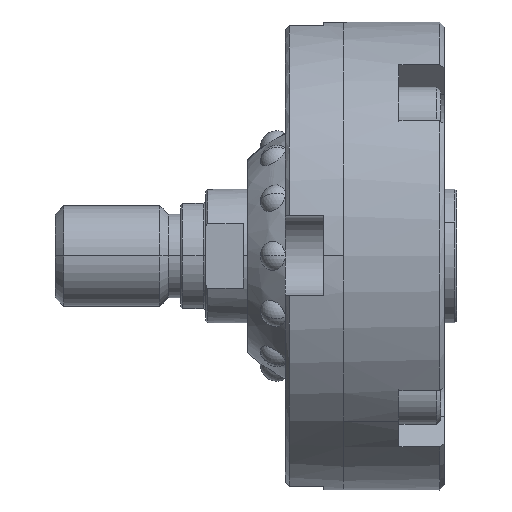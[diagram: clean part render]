
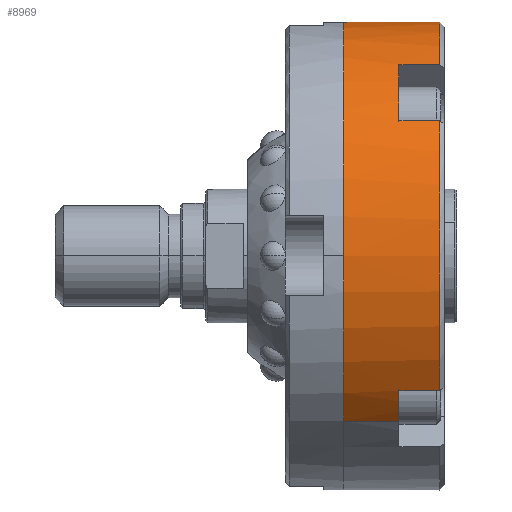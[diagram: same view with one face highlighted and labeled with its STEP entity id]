
A CAD part, top view. The second image highlights one B-rep face of the part: STEP entity #8969.
In plain terms, the highlighted cylindrical face has radius 28 mm (diameter 56 mm), a partial arc.
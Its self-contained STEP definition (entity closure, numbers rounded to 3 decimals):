
#106 = ORIENTED_EDGE ( 'NONE', *, *, #1898, .T. ) ;
#303 = EDGE_CURVE ( 'NONE', #12655, #7101, #6456, .T. ) ;
#331 = ORIENTED_EDGE ( 'NONE', *, *, #2653, .F. ) ;
#407 = AXIS2_PLACEMENT_3D ( 'NONE', #15243, #13751, #7183 ) ;
#442 = ORIENTED_EDGE ( 'NONE', *, *, #5918, .T. ) ;
#585 = ORIENTED_EDGE ( 'NONE', *, *, #9670, .T. ) ;
#1416 = DIRECTION ( 'NONE',  ( -1., 0., 0. ) ) ;
#1421 = DIRECTION ( 'NONE',  ( 1., 0., 0. ) ) ;
#1675 = CIRCLE ( 'NONE', #5945, 28. ) ;
#1685 = DIRECTION ( 'NONE',  ( 1., 0., 0. ) ) ;
#1898 = EDGE_CURVE ( 'NONE', #5867, #5313, #13433, .T. ) ;
#1903 = VECTOR ( 'NONE', #1685, 1000. ) ;
#1968 = VECTOR ( 'NONE', #12064, 1000. ) ;
#2466 = AXIS2_PLACEMENT_3D ( 'NONE', #11170, #9695, #15219 ) ;
#2653 = EDGE_CURVE ( 'NONE', #13579, #10893, #12300, .T. ) ;
#3038 = CARTESIAN_POINT ( 'NONE',  ( 6.6, 0., 0. ) ) ;
#3044 = EDGE_LOOP ( 'NONE', ( #5133, #6478, #15758, #331, #11834, #6202, #106, #442, #5232, #13037, #585, #8322, #3080 ) ) ;
#3080 = ORIENTED_EDGE ( 'NONE', *, *, #16392, .T. ) ;
#3205 = CIRCLE ( 'NONE', #5458, 28. ) ;
#3392 = CARTESIAN_POINT ( 'NONE',  ( 6.6, 19.799, -19.799 ) ) ;
#3458 = CARTESIAN_POINT ( 'NONE',  ( 0., 22.871, -16.153 ) ) ;
#3619 = CARTESIAN_POINT ( 'NONE',  ( 0., 0., 0. ) ) ;
#3744 = VECTOR ( 'NONE', #5000, 1000. ) ;
#3757 = CARTESIAN_POINT ( 'NONE',  ( 11.5, 0., 0. ) ) ;
#3783 = AXIS2_PLACEMENT_3D ( 'NONE', #4033, #1421, #5442 ) ;
#3946 = CIRCLE ( 'NONE', #12254, 28. ) ;
#4033 = CARTESIAN_POINT ( 'NONE',  ( 6.6, 0., 0. ) ) ;
#4036 = CARTESIAN_POINT ( 'NONE',  ( 11.5, 22.871, -16.153 ) ) ;
#4154 = CARTESIAN_POINT ( 'NONE',  ( 0., 16.153, 22.871 ) ) ;
#4933 = VERTEX_POINT ( 'NONE', #14324 ) ;
#5000 = DIRECTION ( 'NONE',  ( -1., 0., 0. ) ) ;
#5128 = LINE ( 'NONE', #3458, #8436 ) ;
#5133 = ORIENTED_EDGE ( 'NONE', *, *, #8750, .F. ) ;
#5232 = ORIENTED_EDGE ( 'NONE', *, *, #13773, .T. ) ;
#5313 = VERTEX_POINT ( 'NONE', #16124 ) ;
#5442 = DIRECTION ( 'NONE',  ( 0., 0.707, -0.707 ) ) ;
#5458 = AXIS2_PLACEMENT_3D ( 'NONE', #6944, #14643, #7992 ) ;
#5657 = EDGE_CURVE ( 'NONE', #7867, #16927, #8741, .T. ) ;
#5867 = VERTEX_POINT ( 'NONE', #14524 ) ;
#5918 = EDGE_CURVE ( 'NONE', #5313, #11904, #3946, .T. ) ;
#5945 = AXIS2_PLACEMENT_3D ( 'NONE', #3038, #8343, #13697 ) ;
#6202 = ORIENTED_EDGE ( 'NONE', *, *, #10100, .F. ) ;
#6456 = CIRCLE ( 'NONE', #11444, 28. ) ;
#6478 = ORIENTED_EDGE ( 'NONE', *, *, #5657, .T. ) ;
#6944 = CARTESIAN_POINT ( 'NONE',  ( 6.6, 0., 0. ) ) ;
#7101 = VERTEX_POINT ( 'NONE', #4036 ) ;
#7183 = DIRECTION ( 'NONE',  ( 0., -0.707, 0.707 ) ) ;
#7279 = CYLINDRICAL_SURFACE ( 'NONE', #407, 28. ) ;
#7713 = EDGE_CURVE ( 'NONE', #16935, #11797, #1675, .T. ) ;
#7867 = VERTEX_POINT ( 'NONE', #3392 ) ;
#7992 = DIRECTION ( 'NONE',  ( 0., 0.707, -0.707 ) ) ;
#8044 = CARTESIAN_POINT ( 'NONE',  ( 0., -19.799, 19.799 ) ) ;
#8322 = ORIENTED_EDGE ( 'NONE', *, *, #303, .T. ) ;
#8343 = DIRECTION ( 'NONE',  ( 1., 0., 0. ) ) ;
#8436 = VECTOR ( 'NONE', #14030, 1000. ) ;
#8657 = CARTESIAN_POINT ( 'NONE',  ( 0., 22.871, 16.153 ) ) ;
#8741 = LINE ( 'NONE', #10045, #3744 ) ;
#8750 = EDGE_CURVE ( 'NONE', #7867, #14411, #3205, .T. ) ;
#8969 = ADVANCED_FACE ( 'NONE', ( #11019 ), #7279, .T. ) ;
#9183 = VECTOR ( 'NONE', #14364, 1000. ) ;
#9593 = EDGE_CURVE ( 'NONE', #10893, #16927, #12169, .T. ) ;
#9670 = EDGE_CURVE ( 'NONE', #16935, #12655, #13550, .T. ) ;
#9695 = DIRECTION ( 'NONE',  ( -1., 0., 0. ) ) ;
#9940 = CARTESIAN_POINT ( 'NONE',  ( 11.5, 16.153, 22.871 ) ) ;
#10045 = CARTESIAN_POINT ( 'NONE',  ( 0., 19.799, -19.799 ) ) ;
#10100 = EDGE_CURVE ( 'NONE', #5867, #4933, #11277, .T. ) ;
#10561 = CARTESIAN_POINT ( 'NONE',  ( 11.5, 0., 0. ) ) ;
#10598 = DIRECTION ( 'NONE',  ( -1., 0., 0. ) ) ;
#10893 = VERTEX_POINT ( 'NONE', #11104 ) ;
#11019 = FACE_OUTER_BOUND ( 'NONE', #3044, .T. ) ;
#11083 = DIRECTION ( 'NONE',  ( -1., 0., 0. ) ) ;
#11104 = CARTESIAN_POINT ( 'NONE',  ( 0., 0., 28. ) ) ;
#11170 = CARTESIAN_POINT ( 'NONE',  ( 0., 0., 0. ) ) ;
#11277 = CIRCLE ( 'NONE', #3783, 28. ) ;
#11444 = AXIS2_PLACEMENT_3D ( 'NONE', #3757, #11083, #16302 ) ;
#11797 = VERTEX_POINT ( 'NONE', #15856 ) ;
#11834 = ORIENTED_EDGE ( 'NONE', *, *, #15962, .F. ) ;
#11904 = VERTEX_POINT ( 'NONE', #9940 ) ;
#12064 = DIRECTION ( 'NONE',  ( -1., 0., 0. ) ) ;
#12083 = DIRECTION ( 'NONE',  ( 1., 0., 0. ) ) ;
#12169 = CIRCLE ( 'NONE', #2466, 28. ) ;
#12254 = AXIS2_PLACEMENT_3D ( 'NONE', #10561, #1416, #14609 ) ;
#12300 = CIRCLE ( 'NONE', #14788, 28. ) ;
#12655 = VERTEX_POINT ( 'NONE', #13453 ) ;
#12996 = LINE ( 'NONE', #4154, #1968 ) ;
#13037 = ORIENTED_EDGE ( 'NONE', *, *, #7713, .F. ) ;
#13185 = CARTESIAN_POINT ( 'NONE',  ( 0., 19.799, -19.799 ) ) ;
#13433 = LINE ( 'NONE', #14753, #15332 ) ;
#13453 = CARTESIAN_POINT ( 'NONE',  ( 11.5, 22.871, 16.153 ) ) ;
#13550 = LINE ( 'NONE', #8657, #1903 ) ;
#13579 = VERTEX_POINT ( 'NONE', #14305 ) ;
#13697 = DIRECTION ( 'NONE',  ( 0., 0.707, -0.707 ) ) ;
#13751 = DIRECTION ( 'NONE',  ( -1., 0., 0. ) ) ;
#13773 = EDGE_CURVE ( 'NONE', #11904, #11797, #12996, .T. ) ;
#14030 = DIRECTION ( 'NONE',  ( -1., 0., 0. ) ) ;
#14305 = CARTESIAN_POINT ( 'NONE',  ( 0., -19.799, 19.799 ) ) ;
#14324 = CARTESIAN_POINT ( 'NONE',  ( 6.6, -19.799, 19.799 ) ) ;
#14364 = DIRECTION ( 'NONE',  ( -1., 0., 0. ) ) ;
#14411 = VERTEX_POINT ( 'NONE', #15874 ) ;
#14524 = CARTESIAN_POINT ( 'NONE',  ( 6.6, -16.153, 22.871 ) ) ;
#14609 = DIRECTION ( 'NONE',  ( 0., -0.707, 0.707 ) ) ;
#14643 = DIRECTION ( 'NONE',  ( 1., 0., 0. ) ) ;
#14753 = CARTESIAN_POINT ( 'NONE',  ( 0., -16.153, 22.871 ) ) ;
#14788 = AXIS2_PLACEMENT_3D ( 'NONE', #3619, #10598, #15888 ) ;
#15219 = DIRECTION ( 'NONE',  ( 0., -0.707, 0.707 ) ) ;
#15243 = CARTESIAN_POINT ( 'NONE',  ( 0., 0., 0. ) ) ;
#15332 = VECTOR ( 'NONE', #12083, 1000. ) ;
#15758 = ORIENTED_EDGE ( 'NONE', *, *, #9593, .F. ) ;
#15856 = CARTESIAN_POINT ( 'NONE',  ( 6.6, 16.153, 22.871 ) ) ;
#15874 = CARTESIAN_POINT ( 'NONE',  ( 6.6, 22.871, -16.153 ) ) ;
#15888 = DIRECTION ( 'NONE',  ( 0., -0.707, 0.707 ) ) ;
#15911 = CARTESIAN_POINT ( 'NONE',  ( 6.6, 22.871, 16.153 ) ) ;
#15962 = EDGE_CURVE ( 'NONE', #4933, #13579, #16041, .T. ) ;
#16041 = LINE ( 'NONE', #8044, #9183 ) ;
#16124 = CARTESIAN_POINT ( 'NONE',  ( 11.5, -16.153, 22.871 ) ) ;
#16302 = DIRECTION ( 'NONE',  ( 0., -0.707, 0.707 ) ) ;
#16392 = EDGE_CURVE ( 'NONE', #7101, #14411, #5128, .T. ) ;
#16927 = VERTEX_POINT ( 'NONE', #13185 ) ;
#16935 = VERTEX_POINT ( 'NONE', #15911 ) ;
